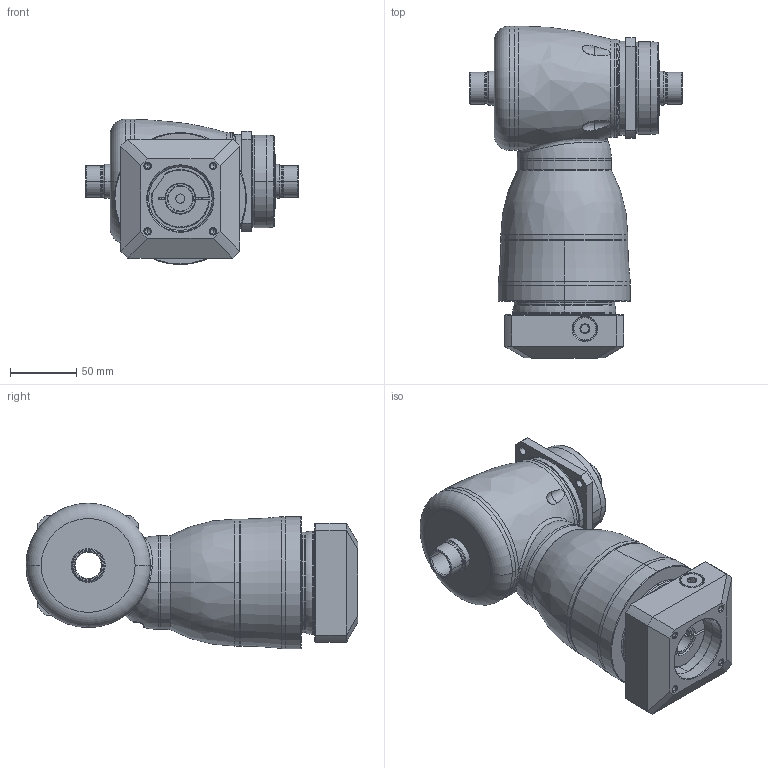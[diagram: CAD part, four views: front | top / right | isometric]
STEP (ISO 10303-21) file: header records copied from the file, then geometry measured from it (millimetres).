
FILE_DESCRIPTION((''),'2;1');
FILE_NAME('KF075_S4_2ST_19-P0409400101_ASM','2016-07-22T',('d01943'),(''),'PRO/ENGINEER BY PARAMETRIC TECHNOLOGY CORPORATION, 2008410','PRO/ENGINEER BY PARAMETRIC TECHNOLOGY CORPORATION, 2008410','');
FILE_SCHEMA(('CONFIG_CONTROL_DESIGN'));
Length unit declared in the file: millimetre
Products named in the file (11): P1008300002; P1804300001; P0914300001; P1315300001; P1007300001; P1317300301; P0409400101; P0503400006; P0912203001; 21711412017; KF075_S4_2ST_19-P0409400101_ASM
Assembly tree (10 placements, depth 2):
  KF075_S4_2ST_19-P0409400101_ASM
    P1008300002
    P1804300001
    P0914300001
    P1315300001
    P1007300001
    P1317300301
    P0409400101
    P0503400006
    P0912203001
    21711412017
Bounding box: 161 x 251 x 110 mm (x, y, z)
Volume: 1457593.6 mm3; surface area: 239831.3 mm2
Topology: 11 solids, 11 shells, 517 faces, 1181 edges, 701 vertices
Faces by surface type: cylinder 173, cone 122, plane 91, torus 80, bspline 49, sphere 2
Entity records: 22057 total; most frequent: CARTESIAN_POINT 10363, DIRECTION 2552, ORIENTED_EDGE 2302, EDGE_CURVE 1151, AXIS2_PLACEMENT_3D 1094, VERTEX_POINT 695, CIRCLE 605, EDGE_LOOP 586
